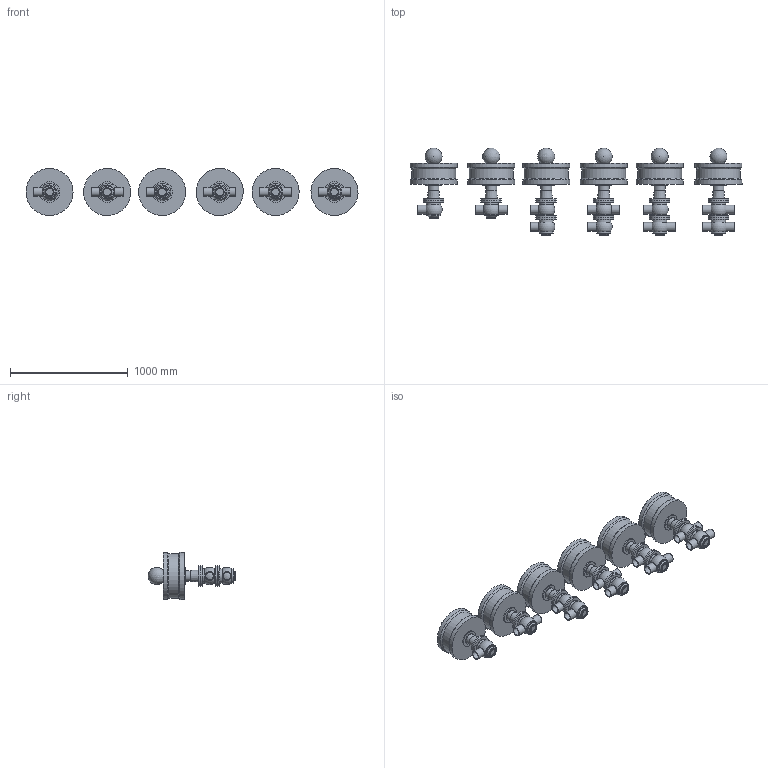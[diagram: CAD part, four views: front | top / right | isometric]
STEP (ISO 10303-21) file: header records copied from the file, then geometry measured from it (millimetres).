
FILE_DESCRIPTION(/* description */ (''),/* implementation_level */ '2;1');
FILE_NAME(/* name */ 'C:\Users\marz-m\Desktop\PDF\BBZQ 3D STEP\BBZQ-DN76.1-CIL.360.stp',/* time_stamp */ '2018-04-13T15:22:38+02:00',/* author */ ('marz-m'),/* organization */ (''),/* preprocessor_version */ 'ST-DEVELOPER v17',/* originating_system */ 'Autodesk Inventor 2018',/* authorisation */ '');
FILE_SCHEMA (('AUTOMOTIVE_DESIGN { 1 0 10303 214 3 1 1 }'));
Length unit declared in the file: millimetre
Products named in the file (8): BBZQ-DN76.1-CIL.360; assemblaggio dn80 per cil 207-360; CILINDRO 360; SAGOMA-GIOTTO-; COR-INF-L-BBZQ-DN76.1; COR-SUP-L-BBZQ-DN76.1; COR-SUP-T-BBZQ-DN76.1; COR-INF-T-BBZQ-DN76.1
Assembly tree (28 placements, depth 2):
  BBZQ-DN76.1-CIL.360
    assemblaggio dn80 per cil 207-360  x6
    COR-INF-L-BBZQ-DN76.1  x3
    COR-INF-T-BBZQ-DN76.1  x3
    COR-SUP-L-BBZQ-DN76.1  x2
    COR-SUP-T-BBZQ-DN76.1  x2
    CILINDRO 360  x6
    SAGOMA-GIOTTO-  x6
Bounding box: 2820.19 x 744.47 x 400 mm (x, y, z)
Volume: 165487798.1 mm3; surface area: 5643417.1 mm2
Topology: 28 solids, 28 shells, 326 faces, 802 edges, 602 vertices
Faces by surface type: cylinder 124, plane 115, torus 32, sphere 31, cone 24
Full cylindrical faces by diameter (mm): 25.4 x6, 66.1 x21, 69.8 x6, 76.1 x21, 92 x6, 120 x20, 141 x6, 174 x20, 374 x6, 400 x12
Entity records: 3544 total; most frequent: DIRECTION 697, CARTESIAN_POINT 549, ORIENTED_EDGE 474, AXIS2_PLACEMENT_3D 327, EDGE_CURVE 237, CIRCLE 194, VERTEX_POINT 179, EDGE_LOOP 122
